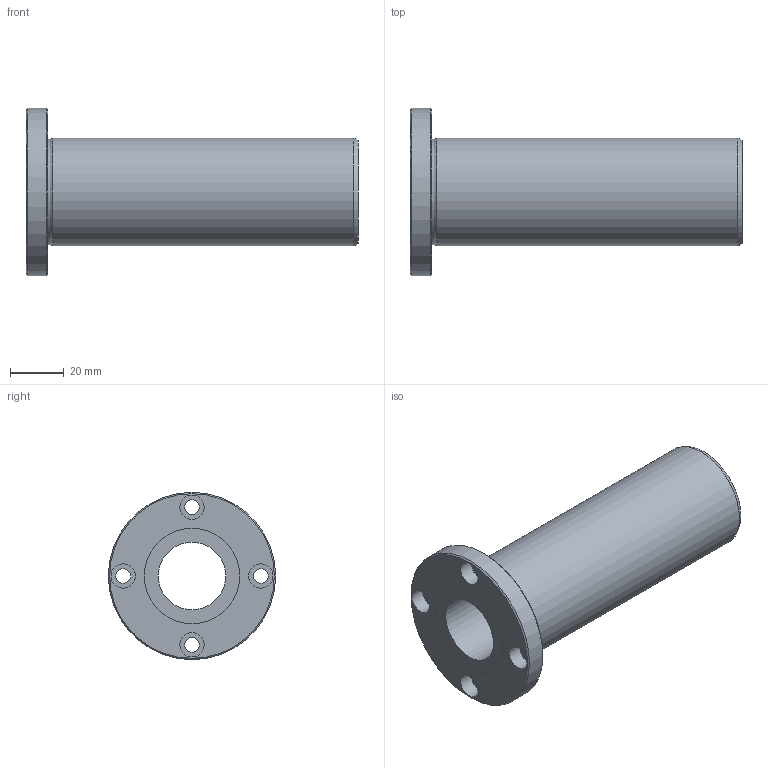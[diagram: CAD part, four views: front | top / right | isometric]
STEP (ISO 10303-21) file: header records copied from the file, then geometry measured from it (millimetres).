
FILE_DESCRIPTION((''),'2;1');
FILE_NAME('D:\製品 (図面)\カタログ用3D\メンテナンスフリー関連\STEP形式\LFD-MF\LFD25MF.stp','2010-06-01T15:45:41',('Tsuchiya'),(''),'Autodesk Inventor 10','Autodesk Inventor 10','');
FILE_SCHEMA(('AUTOMOTIVE_DESIGN { 1 0 10303 214 1 1 1 1 }'));
Length unit declared in the file: millimetre
Products named in the file (1): LFD25MF
Bounding box: 123 x 62 x 62 mm (x, y, z)
Volume: 106392.2 mm3; surface area: 31207.6 mm2
Topology: 1 solids, 1 shells, 26 faces, 47 edges, 30 vertices
Faces by surface type: cylinder 13, plane 9, cone 2, torus 1, bspline 1
Full cylindrical faces by diameter (mm): 5.5 x4, 9 x4, 25 x1, 35.3 x2, 40 x1, 62 x1
Entity records: 665 total; most frequent: CARTESIAN_POINT 149, DIRECTION 112, ORIENTED_EDGE 60, EDGE_LOOP 60, AXIS2_PLACEMENT_3D 56, FACE_BOUND 34, VERTEX_POINT 30, CIRCLE 30
